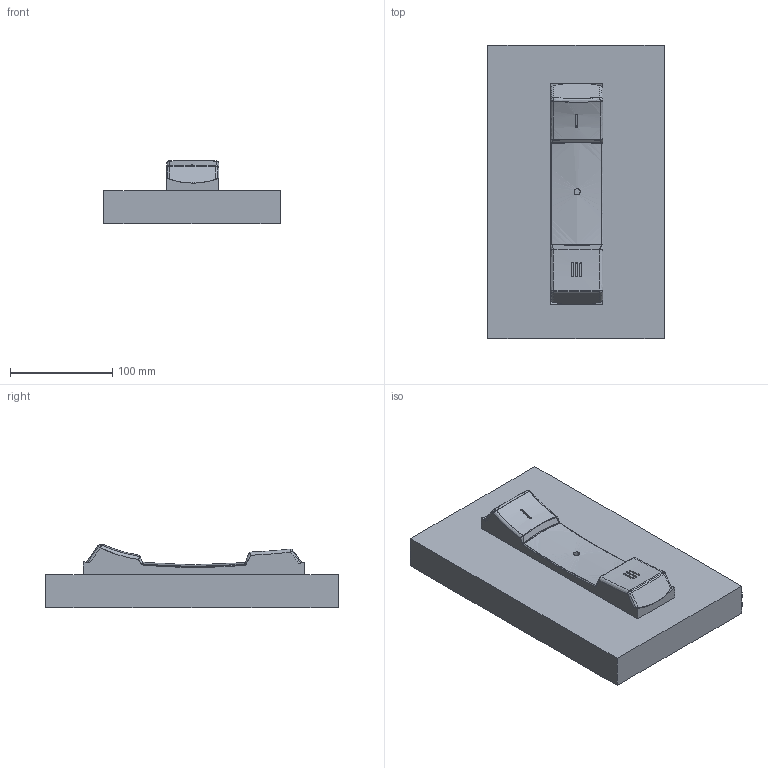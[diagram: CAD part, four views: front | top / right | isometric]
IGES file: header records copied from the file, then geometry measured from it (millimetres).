
Start section: This file was produced by MicroStation IGES
Global section: file name: corn5.igs; native system: MicroStation 95; preprocessor: 5.5; date: 980313.105850; units: millimetre
Bounding box: 172.29 x 285.86 x 62.43 mm (x, y, z)
Surface area: 137703.6 mm2 (no closed solid volume)
Topology: 0 solids, 0 shells, 97 faces, 2684 edges, 2684 vertices
Faces by surface type: bspline 97
